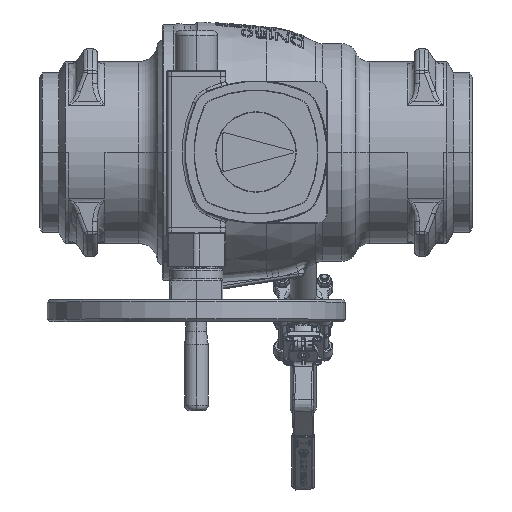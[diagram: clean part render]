
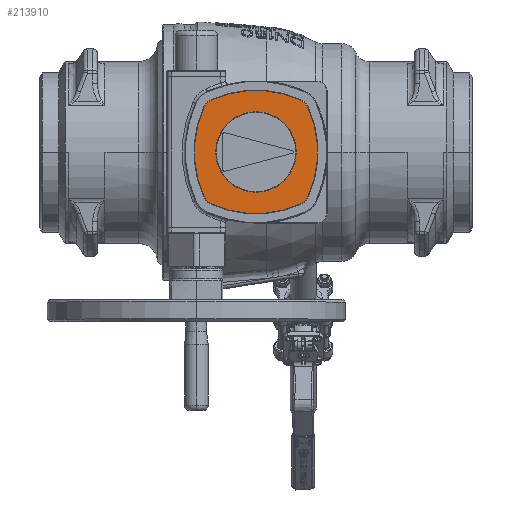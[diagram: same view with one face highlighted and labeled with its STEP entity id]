
A CAD part, top view. The second image highlights one B-rep face of the part: STEP entity #213910.
In plain terms, the highlighted planar face has unit normal (0, 0, 1).
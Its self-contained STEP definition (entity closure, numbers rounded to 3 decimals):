
#196691=CARTESIAN_POINT('',(0.,-50.,168.));
#196692=DIRECTION('',(0.,0.,-1.));
#196693=DIRECTION('',(-0.411,0.911,0.));
#196694=AXIS2_PLACEMENT_3D('',#196691,#196692,#196693);
#196705=CARTESIAN_POINT('',(41.144,41.144,168.));
#196706=DIRECTION('',(0.,0.,1.));
#196707=DIRECTION('',(0.911,0.411,0.));
#196708=AXIS2_PLACEMENT_3D('',#196705,#196706,#196707);
#196719=CARTESIAN_POINT('',(-50.,0.,168.));
#196720=DIRECTION('',(0.,0.,-1.));
#196721=DIRECTION('',(0.911,0.411,0.));
#196722=AXIS2_PLACEMENT_3D('',#196719,#196720,#196721);
#196733=CARTESIAN_POINT('',(41.144,-41.144,168.));
#196734=DIRECTION('',(0.,0.,1.));
#196735=DIRECTION('',(0.411,-0.911,0.));
#196736=AXIS2_PLACEMENT_3D('',#196733,#196734,#196735);
#196747=CARTESIAN_POINT('',(0.,50.,168.));
#196748=DIRECTION('',(0.,0.,-1.));
#196749=DIRECTION('',(0.411,-0.911,0.));
#196750=AXIS2_PLACEMENT_3D('',#196747,#196748,#196749);
#196761=CARTESIAN_POINT('',(-41.144,-41.144,168.));
#196762=DIRECTION('',(0.,0.,1.));
#196763=DIRECTION('',(-0.911,-0.411,0.));
#196764=AXIS2_PLACEMENT_3D('',#196761,#196762,#196763);
#196775=CARTESIAN_POINT('',(50.,0.,168.));
#196776=DIRECTION('',(0.,0.,-1.));
#196777=DIRECTION('',(-0.911,-0.411,0.));
#196778=AXIS2_PLACEMENT_3D('',#196775,#196776,#196777);
#196789=CARTESIAN_POINT('',(-41.144,41.144,168.));
#196790=DIRECTION('',(0.,0.,1.));
#196791=DIRECTION('',(-0.411,0.911,0.));
#196792=AXIS2_PLACEMENT_3D('',#196789,#196790,#196791);
#196794=CARTESIAN_POINT('',(0.,0.,168.));
#196795=DIRECTION('',(0.,0.,1.));
#196796=DIRECTION('',(-1.,0.,0.));
#196797=AXIS2_PLACEMENT_3D('',#196794,#196795,#196796);
#196799=CARTESIAN_POINT('',(0.,0.,168.));
#196800=DIRECTION('',(0.,0.,1.));
#196801=DIRECTION('',(1.,0.,0.));
#196802=AXIS2_PLACEMENT_3D('',#196799,#196800,#196801);
#200822=CARTESIAN_POINT('',(-42.5,0.,168.));
#200823=CARTESIAN_POINT('',(42.5,0.,168.));
#200824=VERTEX_POINT('',#200822);
#200825=VERTEX_POINT('',#200823);
#200826=CARTESIAN_POINT('',(47.315,-54.815,168.));
#200827=CARTESIAN_POINT('',(54.815,-47.315,168.));
#200828=VERTEX_POINT('',#200826);
#200829=VERTEX_POINT('',#200827);
#200830=CARTESIAN_POINT('',(54.815,47.315,168.));
#200831=VERTEX_POINT('',#200830);
#200832=CARTESIAN_POINT('',(47.315,54.815,168.));
#200833=VERTEX_POINT('',#200832);
#200834=CARTESIAN_POINT('',(-47.315,54.815,168.));
#200835=VERTEX_POINT('',#200834);
#200836=CARTESIAN_POINT('',(-54.815,47.315,168.));
#200837=VERTEX_POINT('',#200836);
#200838=CARTESIAN_POINT('',(-54.815,-47.315,168.));
#200839=VERTEX_POINT('',#200838);
#200840=CARTESIAN_POINT('',(-47.315,-54.815,168.));
#200841=VERTEX_POINT('',#200840);
#213889=CARTESIAN_POINT('',(0.,0.,168.));
#213890=DIRECTION('',(0.,0.,1.));
#213891=DIRECTION('',(1.,0.,0.));
#213892=AXIS2_PLACEMENT_3D('',#213889,#213890,#213891);
#213893=PLANE('',#213892);
#213894=ORIENTED_EDGE('',*,*,#213828,.F.);
#213895=ORIENTED_EDGE('',*,*,#213842,.T.);
#213896=ORIENTED_EDGE('',*,*,#213856,.F.);
#213897=ORIENTED_EDGE('',*,*,#213870,.T.);
#213898=ORIENTED_EDGE('',*,*,#213883,.F.);
#213899=ORIENTED_EDGE('',*,*,#213785,.T.);
#213900=ORIENTED_EDGE('',*,*,#213800,.F.);
#213901=ORIENTED_EDGE('',*,*,#213814,.T.);
#213902=EDGE_LOOP('',(#213894,#213895,#213896,#213897,#213898,#213899,#213900,
#213901));
#213903=FACE_OUTER_BOUND('',#213902,.F.);
#213905=ORIENTED_EDGE('',*,*,#213904,.T.);
#213907=ORIENTED_EDGE('',*,*,#213906,.T.);
#213908=EDGE_LOOP('',(#213905,#213907));
#213909=FACE_BOUND('',#213908,.F.);
#213910=ADVANCED_FACE('',(#213903,#213909),#213893,.T.);
#196695=CIRCLE('',#196694,115.);
#196709=CIRCLE('',#196708,15.);
#196723=CIRCLE('',#196722,115.);
#196737=CIRCLE('',#196736,15.);
#196751=CIRCLE('',#196750,115.);
#196765=CIRCLE('',#196764,15.);
#196779=CIRCLE('',#196778,115.);
#196793=CIRCLE('',#196792,15.);
#196798=CIRCLE('',#196797,42.5);
#196803=CIRCLE('',#196802,42.5);
#213785=EDGE_CURVE('',#200835,#200833,#196695,.T.);
#213800=EDGE_CURVE('',#200831,#200833,#196709,.T.);
#213814=EDGE_CURVE('',#200831,#200829,#196723,.T.);
#213828=EDGE_CURVE('',#200828,#200829,#196737,.T.);
#213842=EDGE_CURVE('',#200828,#200841,#196751,.T.);
#213856=EDGE_CURVE('',#200839,#200841,#196765,.T.);
#213870=EDGE_CURVE('',#200839,#200837,#196779,.T.);
#213883=EDGE_CURVE('',#200835,#200837,#196793,.T.);
#213904=EDGE_CURVE('',#200824,#200825,#196798,.T.);
#213906=EDGE_CURVE('',#200825,#200824,#196803,.T.);
